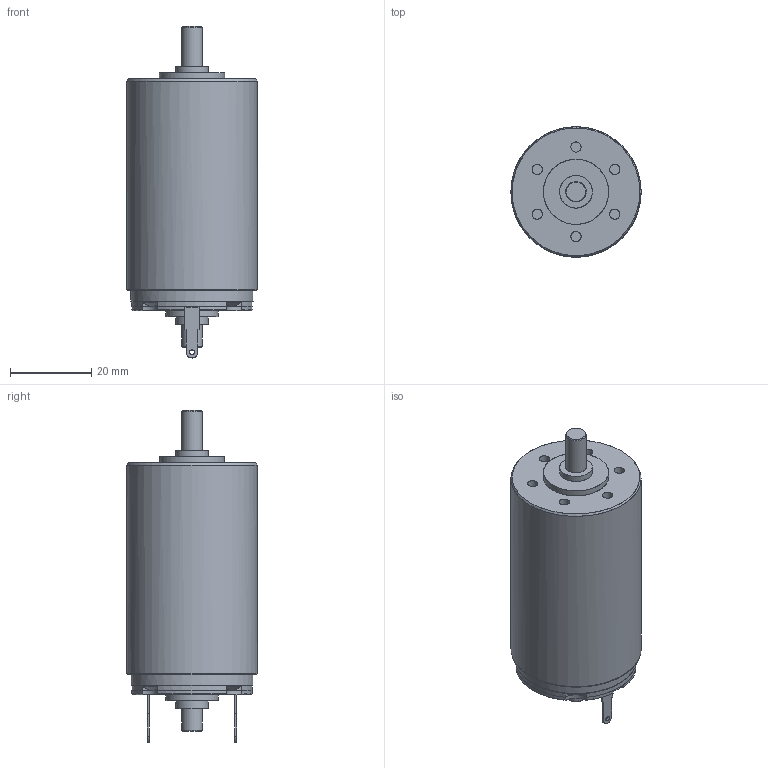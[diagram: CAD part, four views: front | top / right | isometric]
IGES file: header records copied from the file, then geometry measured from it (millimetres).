
Global section: file name: R:\a_public\Organisationsentwicklung\Aufgaben\CAD_Modelle_Vertrieb\Motor\3257.CR\3257.CR.igs; native system: NX V7.5; preprocessor: SIEMENS PLM Software NX 7.5; author: DR. FRITZ FAULHABER GmbH & Co. KG; organization: DR. FRITZ FAULHABER GmbH & Co. KG; date: 20121106.133859; units: millimetre
Bounding box: 32 x 31.98 x 81.6 mm (x, y, z)
Surface area: 8436 mm2 (no closed solid volume)
Topology: 0 solids, 0 shells, 126 faces, 1028 edges, 971 vertices
Faces by surface type: bspline 126
